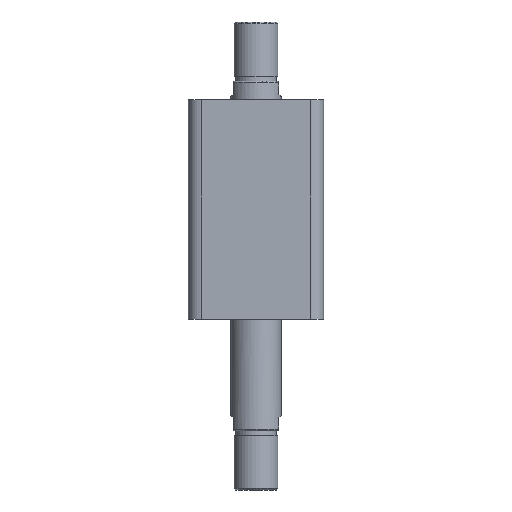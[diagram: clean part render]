
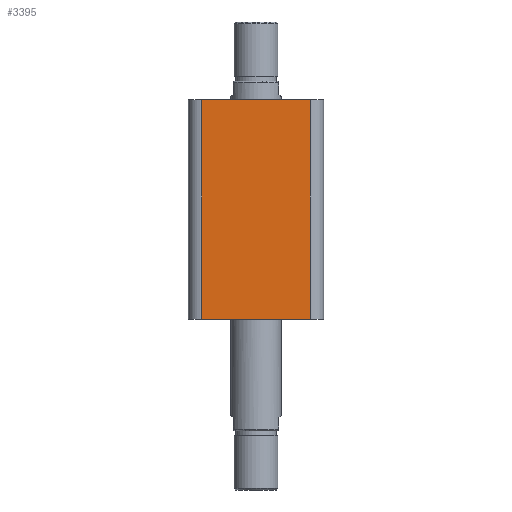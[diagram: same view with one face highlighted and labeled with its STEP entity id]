
A CAD part, front view. The second image highlights one B-rep face of the part: STEP entity #3395.
In plain terms, the highlighted planar face has unit normal (0, -1, 0).
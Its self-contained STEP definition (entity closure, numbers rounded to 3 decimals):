
#41 = CARTESIAN_POINT ( 'NONE',  ( 32., -40., 0. ) ) ;
#47 = CARTESIAN_POINT ( 'NONE',  ( 32., -40., 130. ) ) ;
#52 = CARTESIAN_POINT ( 'NONE',  ( -32., -40., 0. ) ) ;
#54 = CARTESIAN_POINT ( 'NONE',  ( -32., -40., 130. ) ) ;
#212 = VERTEX_POINT ( 'NONE', #52 ) ;
#213 = VERTEX_POINT ( 'NONE', #54 ) ;
#218 = VERTEX_POINT ( 'NONE', #47 ) ;
#220 = VERTEX_POINT ( 'NONE', #41 ) ;
#324 = ORIENTED_EDGE ( 'NONE', *, *, #2505, .T. ) ;
#348 = ORIENTED_EDGE ( 'NONE', *, *, #2504, .T. ) ;
#350 = ORIENTED_EDGE ( 'NONE', *, *, #2502, .F. ) ;
#353 = ORIENTED_EDGE ( 'NONE', *, *, #2503, .T. ) ;
#651 = AXIS2_PLACEMENT_3D ( 'NONE', #1250, #1255, #1256 ) ;
#781 = CARTESIAN_POINT ( 'NONE',  ( -40., -40., 0. ) ) ;
#791 = CARTESIAN_POINT ( 'NONE',  ( -40., -40., 130. ) ) ;
#792 = DIRECTION ( 'NONE',  ( 1., 0., 0. ) ) ;
#793 = CARTESIAN_POINT ( 'NONE',  ( -32., -40., 130. ) ) ;
#794 = DIRECTION ( 'NONE',  ( 0., 0., -1. ) ) ;
#795 = DIRECTION ( 'NONE',  ( 1., 0., 0. ) ) ;
#796 = CARTESIAN_POINT ( 'NONE',  ( 32., -40., 130. ) ) ;
#797 = DIRECTION ( 'NONE',  ( 0., 0., 1. ) ) ;
#1250 = CARTESIAN_POINT ( 'NONE',  ( -40., -40., 130. ) ) ;
#1254 = PLANE ( 'NONE',  #651 ) ;
#1255 = DIRECTION ( 'NONE',  ( 0., 1., 0. ) ) ;
#1256 = DIRECTION ( 'NONE',  ( 0., 0., 1. ) ) ;
#2248 = EDGE_LOOP ( 'NONE', ( #350, #353, #348, #324 ) ) ;
#2502 = EDGE_CURVE ( 'NONE', #213, #218, #2978, .T. ) ;
#2503 = EDGE_CURVE ( 'NONE', #213, #212, #2980, .T. ) ;
#2504 = EDGE_CURVE ( 'NONE', #212, #220, #2972, .T. ) ;
#2505 = EDGE_CURVE ( 'NONE', #220, #218, #2984, .T. ) ;
#2972 = LINE ( 'NONE', #781, #2985 ) ;
#2978 = LINE ( 'NONE', #791, #2981 ) ;
#2980 = LINE ( 'NONE', #793, #2983 ) ;
#2981 = VECTOR ( 'NONE', #792, 1000. ) ;
#2983 = VECTOR ( 'NONE', #794, 1000. ) ;
#2984 = LINE ( 'NONE', #796, #2987 ) ;
#2985 = VECTOR ( 'NONE', #795, 1000. ) ;
#2987 = VECTOR ( 'NONE', #797, 1000. ) ;
#3164 = FACE_OUTER_BOUND ( 'NONE', #2248, .T. ) ;
#3395 = ADVANCED_FACE ( 'NONE', ( #3164 ), #1254, .F. ) ;
